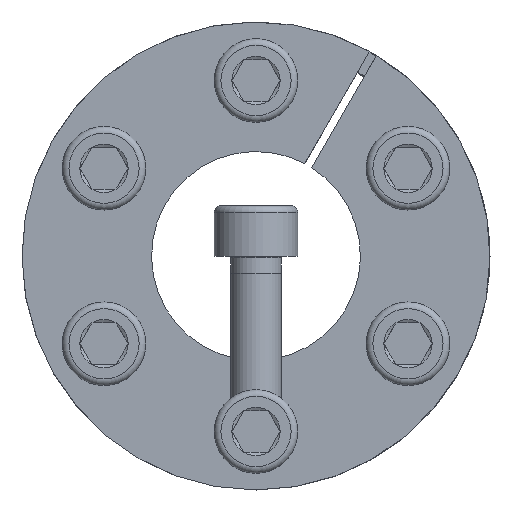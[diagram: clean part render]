
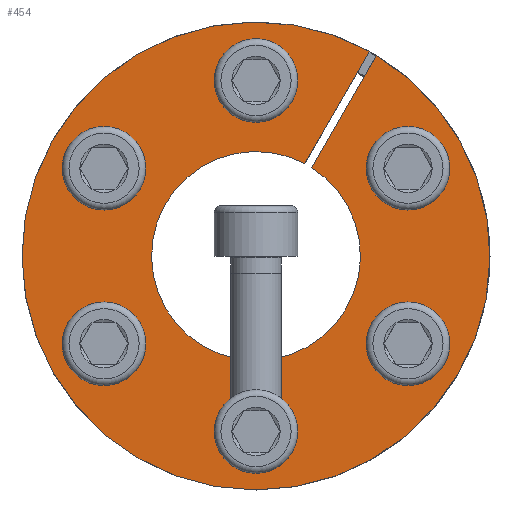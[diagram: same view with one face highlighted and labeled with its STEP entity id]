
A CAD part, front view. The second image highlights one B-rep face of the part: STEP entity #454.
In plain terms, the highlighted planar face has unit normal (0, -1, 0).
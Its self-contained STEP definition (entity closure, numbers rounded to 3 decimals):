
#454 = ADVANCED_FACE( '', ( #800, #801, #802, #803, #804, #805, #806 ), #807, .F. );
#800 = FACE_BOUND( '', #1240, .T. );
#801 = FACE_BOUND( '', #1241, .T. );
#802 = FACE_BOUND( '', #1242, .T. );
#803 = FACE_BOUND( '', #1243, .T. );
#804 = FACE_BOUND( '', #1244, .T. );
#805 = FACE_BOUND( '', #1245, .T. );
#806 = FACE_OUTER_BOUND( '', #1246, .T. );
#807 = PLANE( '', #1247 );
#1240 = EDGE_LOOP( '', ( #1789 ) );
#1241 = EDGE_LOOP( '', ( #1790 ) );
#1242 = EDGE_LOOP( '', ( #1791 ) );
#1243 = EDGE_LOOP( '', ( #1792 ) );
#1244 = EDGE_LOOP( '', ( #1793 ) );
#1245 = EDGE_LOOP( '', ( #1794 ) );
#1246 = EDGE_LOOP( '', ( #1795, #1796, #1797, #1798 ) );
#1247 = AXIS2_PLACEMENT_3D( '', #1799, #1800, #1801 );
#1789 = ORIENTED_EDGE( '', *, *, #2771, .T. );
#1790 = ORIENTED_EDGE( '', *, *, #2772, .T. );
#1791 = ORIENTED_EDGE( '', *, *, #2773, .T. );
#1792 = ORIENTED_EDGE( '', *, *, #2774, .T. );
#1793 = ORIENTED_EDGE( '', *, *, #2775, .T. );
#1794 = ORIENTED_EDGE( '', *, *, #2762, .T. );
#1795 = ORIENTED_EDGE( '', *, *, #2757, .T. );
#1796 = ORIENTED_EDGE( '', *, *, #2763, .T. );
#1797 = ORIENTED_EDGE( '', *, *, #2734, .T. );
#1798 = ORIENTED_EDGE( '', *, *, #2725, .F. );
#1799 = CARTESIAN_POINT( '', ( 0., 0., 28. ) );
#1800 = DIRECTION( '', ( 0., 1., 0. ) );
#1801 = DIRECTION( '', ( 0., 0., 1. ) );
#2725 = EDGE_CURVE( '', #3022, #3018, #3024, .T. );
#2734 = EDGE_CURVE( '', #3041, #3018, #3042, .T. );
#2757 = EDGE_CURVE( '', #3022, #3077, #3079, .T. );
#2762 = EDGE_CURVE( '', #3085, #3085, #3086, .T. );
#2763 = EDGE_CURVE( '', #3077, #3041, #3087, .T. );
#2771 = EDGE_CURVE( '', #3101, #3101, #3102, .T. );
#2772 = EDGE_CURVE( '', #3103, #3103, #3104, .T. );
#2773 = EDGE_CURVE( '', #3105, #3105, #3106, .T. );
#2774 = EDGE_CURVE( '', #3107, #3107, #3108, .T. );
#2775 = EDGE_CURVE( '', #3109, #3109, #3110, .T. );
#3018 = VERTEX_POINT( '', #3407 );
#3022 = VERTEX_POINT( '', #3412 );
#3024 = CIRCLE( '', #3415, 12.5 );
#3041 = VERTEX_POINT( '', #3440 );
#3042 = LINE( '', #3441, #3442 );
#3077 = VERTEX_POINT( '', #3506 );
#3079 = LINE( '', #3509, #3510 );
#3085 = VERTEX_POINT( '', #3516 );
#3086 = CIRCLE( '', #3517, 3. );
#3087 = CIRCLE( '', #3518, 28. );
#3101 = VERTEX_POINT( '', #3532 );
#3102 = CIRCLE( '', #3533, 3. );
#3103 = VERTEX_POINT( '', #3534 );
#3104 = CIRCLE( '', #3535, 3. );
#3105 = VERTEX_POINT( '', #3536 );
#3106 = CIRCLE( '', #3537, 3. );
#3107 = VERTEX_POINT( '', #3538 );
#3108 = CIRCLE( '', #3539, 3. );
#3109 = VERTEX_POINT( '', #3540 );
#3110 = CIRCLE( '', #3541, 3. );
#3407 = CARTESIAN_POINT( '', ( 6.666, 0., 10.574 ) );
#3412 = CARTESIAN_POINT( '', ( 5.825, 0., 11.06 ) );
#3415 = AXIS2_PLACEMENT_3D( '', #4132, #4133, #4134 );
#3440 = CARTESIAN_POINT( '', ( 14.419, 0., 24.002 ) );
#3441 = CARTESIAN_POINT( '', ( 14.421, 0., 24.006 ) );
#3442 = VECTOR( '', #4149, 1000. );
#3506 = CARTESIAN_POINT( '', ( 13.577, 0., 24.488 ) );
#3509 = CARTESIAN_POINT( '', ( 5.825, 0., 11.06 ) );
#3510 = VECTOR( '', #4174, 1000. );
#3516 = CARTESIAN_POINT( '', ( -16.687, 0., 13.098 ) );
#3517 = AXIS2_PLACEMENT_3D( '', #4187, #4188, #4189 );
#3518 = AXIS2_PLACEMENT_3D( '', #4190, #4191, #4192 );
#3532 = CARTESIAN_POINT( '', ( 3., 0., 21. ) );
#3533 = AXIS2_PLACEMENT_3D( '', #4214, #4215, #4216 );
#3534 = CARTESIAN_POINT( '', ( 19.687, 0., 7.902 ) );
#3535 = AXIS2_PLACEMENT_3D( '', #4217, #4218, #4219 );
#3536 = CARTESIAN_POINT( '', ( 16.687, 0., -13.098 ) );
#3537 = AXIS2_PLACEMENT_3D( '', #4220, #4221, #4222 );
#3538 = CARTESIAN_POINT( '', ( -3., 0., -21. ) );
#3539 = AXIS2_PLACEMENT_3D( '', #4223, #4224, #4225 );
#3540 = CARTESIAN_POINT( '', ( -19.687, 0., -7.902 ) );
#3541 = AXIS2_PLACEMENT_3D( '', #4226, #4227, #4228 );
#4132 = CARTESIAN_POINT( '', ( 0., 0., 0. ) );
#4133 = DIRECTION( '', ( 0., -1., 0. ) );
#4134 = DIRECTION( '', ( 0., 0., -1. ) );
#4149 = DIRECTION( '', ( -0.5, 0., -0.866 ) );
#4174 = DIRECTION( '', ( 0.5, 0., 0.866 ) );
#4187 = CARTESIAN_POINT( '', ( -18.187, 0., 10.5 ) );
#4188 = DIRECTION( '', ( 0., 1., 0. ) );
#4189 = DIRECTION( '', ( 0.5, 0., 0.866 ) );
#4190 = CARTESIAN_POINT( '', ( 0., 0., 0. ) );
#4191 = DIRECTION( '', ( 0., -1., 0. ) );
#4192 = DIRECTION( '', ( 0., 0., -1. ) );
#4214 = CARTESIAN_POINT( '', ( 0., 0., 21. ) );
#4215 = DIRECTION( '', ( 0., 1., 0. ) );
#4216 = DIRECTION( '', ( 1., 0., 0. ) );
#4217 = CARTESIAN_POINT( '', ( 18.187, 0., 10.5 ) );
#4218 = DIRECTION( '', ( 0., 1., 0. ) );
#4219 = DIRECTION( '', ( 0.5, 0., -0.866 ) );
#4220 = CARTESIAN_POINT( '', ( 18.187, 0., -10.5 ) );
#4221 = DIRECTION( '', ( 0., 1., 0. ) );
#4222 = DIRECTION( '', ( -0.5, 0., -0.866 ) );
#4223 = CARTESIAN_POINT( '', ( 0., 0., -21. ) );
#4224 = DIRECTION( '', ( 0., 1., 0. ) );
#4225 = DIRECTION( '', ( -1., 0., 0. ) );
#4226 = CARTESIAN_POINT( '', ( -18.187, 0., -10.5 ) );
#4227 = DIRECTION( '', ( 0., 1., 0. ) );
#4228 = DIRECTION( '', ( -0.5, 0., 0.866 ) );
